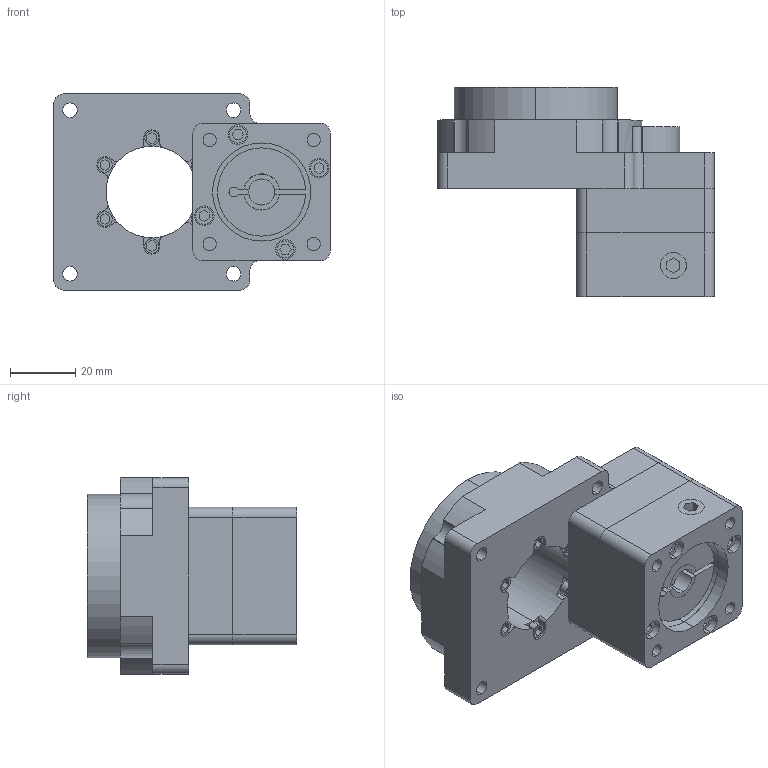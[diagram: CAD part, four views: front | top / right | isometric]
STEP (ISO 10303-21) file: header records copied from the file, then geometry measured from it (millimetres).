
FILE_DESCRIPTION (( 'STEP AP214' ), '1' );
FILE_NAME ('TS60-10K-100W-M4.STEP', '2020-05-12T09:10:04', ( '' ), ( '' ), 'SwSTEP 2.0', 'SolidWorks 2020', '' );
FILE_SCHEMA (( 'AUTOMOTIVE_DESIGN' ));
Length unit declared in the file: millimetre
Products named in the file (1): TS60-10K-100W-M4
Bounding box: 84.6 x 64 x 60 mm (x, y, z)
Volume: 129226.5 mm3; surface area: 38204.7 mm2
Topology: 3 solids, 11 shells, 406 faces, 977 edges, 638 vertices
Faces by surface type: cylinder 199, plane 191, cone 16
Entity records: 11978 total; most frequent: DIRECTION 2187, CARTESIAN_POINT 2091, ORIENTED_EDGE 1922, EDGE_CURVE 961, AXIS2_PLACEMENT_3D 823, VERTEX_POINT 638, LINE 541, VECTOR 541
